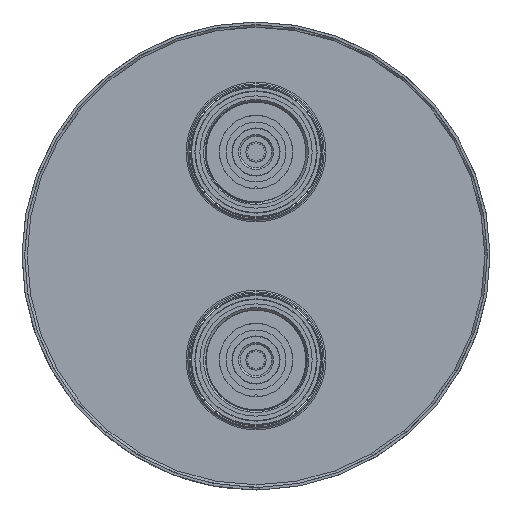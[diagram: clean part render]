
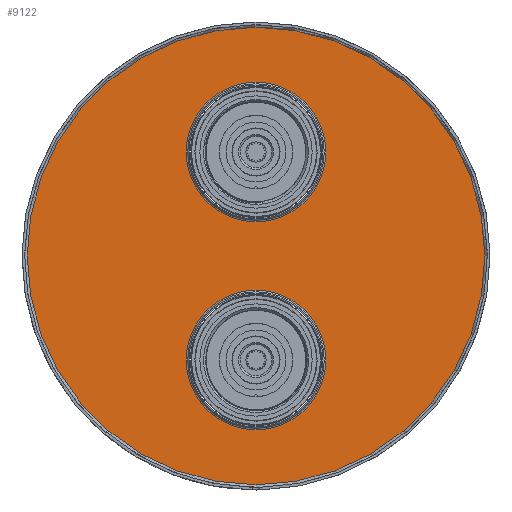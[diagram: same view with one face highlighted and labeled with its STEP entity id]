
A CAD part, left-side view. The second image highlights one B-rep face of the part: STEP entity #9122.
In plain terms, the highlighted planar face has unit normal (-1, 0, 0) as drawn and (0, 0, -1) by its records, which use the part's own axes.
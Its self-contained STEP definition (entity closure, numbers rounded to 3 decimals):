
#745=FACE_BOUND('',#1975,.T.);
#746=FACE_BOUND('',#1976,.T.);
#917=CIRCLE('',#9727,26.85);
#918=CIRCLE('',#9729,88.);
#919=CIRCLE('',#9730,26.85);
#1385=FACE_OUTER_BOUND('',#1974,.T.);
#1974=EDGE_LOOP('',(#6343));
#1975=EDGE_LOOP('',(#6344));
#1976=EDGE_LOOP('',(#6345));
#4004=VERTEX_POINT('',#13197);
#4005=VERTEX_POINT('',#13200);
#4006=VERTEX_POINT('',#13202);
#4949=EDGE_CURVE('',#4004,#4004,#917,.T.);
#4950=EDGE_CURVE('',#4005,#4005,#918,.T.);
#4951=EDGE_CURVE('',#4006,#4006,#919,.T.);
#6343=ORIENTED_EDGE('',*,*,#4950,.T.);
#6344=ORIENTED_EDGE('',*,*,#4951,.T.);
#6345=ORIENTED_EDGE('',*,*,#4949,.T.);
#8872=PLANE('',#9728);
#9122=ADVANCED_FACE('',(#1385,#745,#746),#8872,.T.);
#9727=AXIS2_PLACEMENT_3D('',#13198,#10747,#10748);
#9728=AXIS2_PLACEMENT_3D('',#13199,#10749,#10750);
#9729=AXIS2_PLACEMENT_3D('',#13201,#10751,#10752);
#9730=AXIS2_PLACEMENT_3D('',#13203,#10753,#10754);
#10747=DIRECTION('center_axis',(0.,0.,1.));
#10748=DIRECTION('ref_axis',(-1.,0.,0.));
#10749=DIRECTION('center_axis',(0.,0.,-1.));
#10750=DIRECTION('ref_axis',(-1.,0.,0.));
#10751=DIRECTION('center_axis',(0.,0.,-1.));
#10752=DIRECTION('ref_axis',(-1.,0.,0.));
#10753=DIRECTION('center_axis',(0.,0.,1.));
#10754=DIRECTION('ref_axis',(-1.,0.,0.));
#13197=CARTESIAN_POINT('',(26.85,-40.,11.));
#13198=CARTESIAN_POINT('Origin',(0.,-40.,11.));
#13199=CARTESIAN_POINT('Origin',(0.,0.,11.));
#13200=CARTESIAN_POINT('',(88.,0.,11.));
#13201=CARTESIAN_POINT('Origin',(0.,0.,11.));
#13202=CARTESIAN_POINT('',(26.85,40.,11.));
#13203=CARTESIAN_POINT('Origin',(0.,40.,11.));
